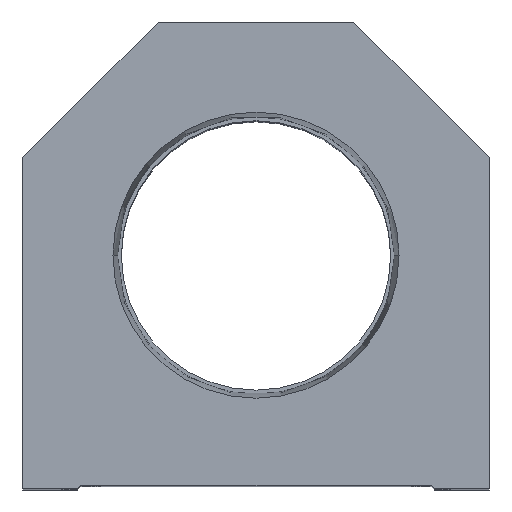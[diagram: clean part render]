
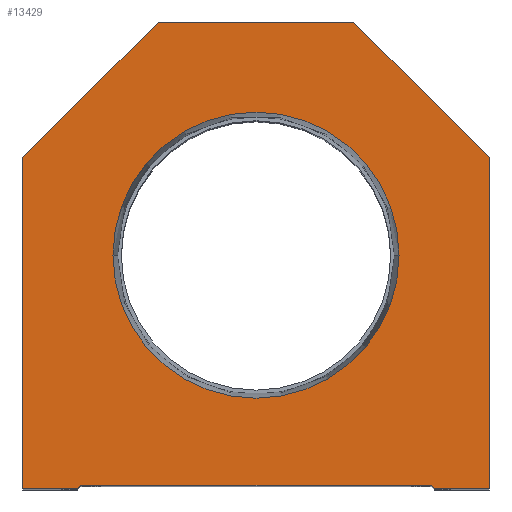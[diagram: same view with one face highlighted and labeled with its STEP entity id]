
A CAD part, top view. The second image highlights one B-rep face of the part: STEP entity #13429.
In plain terms, the highlighted planar face has unit normal (0, 0, 1).
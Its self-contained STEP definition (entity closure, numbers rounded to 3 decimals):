
#15 = EDGE_CURVE ( 'NONE', #10994, #6821, #7480, .T. ) ;
#188 = CARTESIAN_POINT ( 'NONE',  ( -29.1, 0., 0. ) ) ;
#552 = DIRECTION ( 'NONE',  ( 1., 0., 0. ) ) ;
#622 = CARTESIAN_POINT ( 'NONE',  ( 0., 0., 0. ) ) ;
#677 = DIRECTION ( 'NONE',  ( -0.707, 0.707, 0. ) ) ;
#753 = ORIENTED_EDGE ( 'NONE', *, *, #14272, .T. ) ;
#772 = EDGE_CURVE ( 'NONE', #4249, #15640, #3554, .T. ) ;
#859 = DIRECTION ( 'NONE',  ( 1., 0., 0. ) ) ;
#1172 = DIRECTION ( 'NONE',  ( -1., 0., 0. ) ) ;
#1192 = DIRECTION ( 'NONE',  ( 0., 1., 0. ) ) ;
#1453 = LINE ( 'NONE', #2497, #10303 ) ;
#1494 = AXIS2_PLACEMENT_3D ( 'NONE', #622, #1933, #15550 ) ;
#1665 = DIRECTION ( 'NONE',  ( -0.707, -0.707, 0. ) ) ;
#1927 = EDGE_CURVE ( 'NONE', #7690, #16699, #8554, .T. ) ;
#1933 = DIRECTION ( 'NONE',  ( 0., 0., 1. ) ) ;
#2105 = LINE ( 'NONE', #7360, #17096 ) ;
#2412 = FACE_OUTER_BOUND ( 'NONE', #5774, .T. ) ;
#2473 = AXIS2_PLACEMENT_3D ( 'NONE', #4831, #15375, #13965 ) ;
#2497 = CARTESIAN_POINT ( 'NONE',  ( 38.1, 0., 0. ) ) ;
#2647 = ORIENTED_EDGE ( 'NONE', *, *, #6293, .T. ) ;
#2718 = ORIENTED_EDGE ( 'NONE', *, *, #6754, .F. ) ;
#2752 = VERTEX_POINT ( 'NONE', #5841 ) ;
#2811 = ORIENTED_EDGE ( 'NONE', *, *, #772, .T. ) ;
#2813 = DIRECTION ( 'NONE',  ( 0.707, -0.707, 0. ) ) ;
#2865 = CARTESIAN_POINT ( 'NONE',  ( -16., 76.2, 0. ) ) ;
#2871 = VERTEX_POINT ( 'NONE', #15019 ) ;
#3147 = CARTESIAN_POINT ( 'NONE',  ( -38.1, 0., 0. ) ) ;
#3292 = CARTESIAN_POINT ( 'NONE',  ( 16., 76.2, 0. ) ) ;
#3301 = CARTESIAN_POINT ( 'NONE',  ( -38.1, 54.1, 0. ) ) ;
#3408 = ORIENTED_EDGE ( 'NONE', *, *, #15, .F. ) ;
#3554 = LINE ( 'NONE', #11404, #15757 ) ;
#3585 = CARTESIAN_POINT ( 'NONE',  ( -38.1, 0., 0. ) ) ;
#3791 = CARTESIAN_POINT ( 'NONE',  ( -23.374, 38.1, 0. ) ) ;
#3834 = EDGE_CURVE ( 'NONE', #8561, #17056, #13622, .T. ) ;
#3955 = CARTESIAN_POINT ( 'NONE',  ( 16., 76.2, 0. ) ) ;
#4249 = VERTEX_POINT ( 'NONE', #10241 ) ;
#4416 = DIRECTION ( 'NONE',  ( 0., -1., 0. ) ) ;
#4714 = ORIENTED_EDGE ( 'NONE', *, *, #5711, .T. ) ;
#4831 = CARTESIAN_POINT ( 'NONE',  ( 0., 38.1, 0. ) ) ;
#4976 = LINE ( 'NONE', #3955, #7278 ) ;
#5183 = ORIENTED_EDGE ( 'NONE', *, *, #1927, .T. ) ;
#5201 = CIRCLE ( 'NONE', #14953, 23.374 ) ;
#5251 = VECTOR ( 'NONE', #9587, 1000. ) ;
#5458 = LINE ( 'NONE', #10766, #16070 ) ;
#5711 = EDGE_CURVE ( 'NONE', #10489, #7690, #14969, .T. ) ;
#5774 = EDGE_LOOP ( 'NONE', ( #11963, #6545, #6504, #2647, #753, #14467, #2811, #16433, #4714, #5183 ) ) ;
#5841 = CARTESIAN_POINT ( 'NONE',  ( 29.1, 0., 0. ) ) ;
#5877 = LINE ( 'NONE', #13831, #6454 ) ;
#5897 = VECTOR ( 'NONE', #16178, 1000. ) ;
#5953 = DIRECTION ( 'NONE',  ( 0., 0., 1. ) ) ;
#6293 = EDGE_CURVE ( 'NONE', #17056, #2752, #5458, .T. ) ;
#6454 = VECTOR ( 'NONE', #552, 1000. ) ;
#6504 = ORIENTED_EDGE ( 'NONE', *, *, #3834, .T. ) ;
#6545 = ORIENTED_EDGE ( 'NONE', *, *, #16809, .T. ) ;
#6754 = EDGE_CURVE ( 'NONE', #6821, #10994, #5201, .T. ) ;
#6821 = VERTEX_POINT ( 'NONE', #9122 ) ;
#7278 = VECTOR ( 'NONE', #1172, 1000. ) ;
#7360 = CARTESIAN_POINT ( 'NONE',  ( 28.6, 0., 0. ) ) ;
#7480 = CIRCLE ( 'NONE', #2473, 23.374 ) ;
#7690 = VERTEX_POINT ( 'NONE', #3301 ) ;
#8022 = CARTESIAN_POINT ( 'NONE',  ( -28.6, 0.5, 0. ) ) ;
#8128 = LINE ( 'NONE', #8221, #5897 ) ;
#8185 = VECTOR ( 'NONE', #4416, 1000. ) ;
#8221 = CARTESIAN_POINT ( 'NONE',  ( -14.55, 14.55, 0. ) ) ;
#8377 = EDGE_LOOP ( 'NONE', ( #2718, #3408 ) ) ;
#8480 = EDGE_CURVE ( 'NONE', #2871, #4249, #1453, .T. ) ;
#8554 = LINE ( 'NONE', #3147, #8185 ) ;
#8561 = VERTEX_POINT ( 'NONE', #8022 ) ;
#8878 = EDGE_CURVE ( 'NONE', #16699, #9404, #5877, .T. ) ;
#9122 = CARTESIAN_POINT ( 'NONE',  ( 23.374, 38.1, 0. ) ) ;
#9404 = VERTEX_POINT ( 'NONE', #188 ) ;
#9432 = CARTESIAN_POINT ( 'NONE',  ( -38.1, 54.1, 0. ) ) ;
#9587 = DIRECTION ( 'NONE',  ( 1., 0., 0. ) ) ;
#10241 = CARTESIAN_POINT ( 'NONE',  ( 38.1, 54.1, 0. ) ) ;
#10303 = VECTOR ( 'NONE', #1192, 1000. ) ;
#10489 = VERTEX_POINT ( 'NONE', #2865 ) ;
#10766 = CARTESIAN_POINT ( 'NONE',  ( 14.55, 14.55, 0. ) ) ;
#10994 = VERTEX_POINT ( 'NONE', #3791 ) ;
#11404 = CARTESIAN_POINT ( 'NONE',  ( 38.1, 54.1, 0. ) ) ;
#11415 = CARTESIAN_POINT ( 'NONE',  ( 28.6, 0.5, 0. ) ) ;
#11963 = ORIENTED_EDGE ( 'NONE', *, *, #8878, .T. ) ;
#12212 = CARTESIAN_POINT ( 'NONE',  ( -28.6, 0.5, 0. ) ) ;
#12502 = DIRECTION ( 'NONE',  ( 1., 0., 0. ) ) ;
#12558 = CARTESIAN_POINT ( 'NONE',  ( 0., 38.1, 0. ) ) ;
#13429 = ADVANCED_FACE ( 'NONE', ( #14317, #2412 ), #16556, .T. ) ;
#13622 = LINE ( 'NONE', #12212, #5251 ) ;
#13831 = CARTESIAN_POINT ( 'NONE',  ( -28.6, 0., 0. ) ) ;
#13965 = DIRECTION ( 'NONE',  ( 1., 0., 0. ) ) ;
#14272 = EDGE_CURVE ( 'NONE', #2752, #2871, #2105, .T. ) ;
#14317 = FACE_BOUND ( 'NONE', #8377, .T. ) ;
#14445 = EDGE_CURVE ( 'NONE', #15640, #10489, #4976, .T. ) ;
#14467 = ORIENTED_EDGE ( 'NONE', *, *, #8480, .T. ) ;
#14953 = AXIS2_PLACEMENT_3D ( 'NONE', #12558, #5953, #859 ) ;
#14969 = LINE ( 'NONE', #9432, #15712 ) ;
#15019 = CARTESIAN_POINT ( 'NONE',  ( 38.1, 0., 0. ) ) ;
#15375 = DIRECTION ( 'NONE',  ( 0., 0., 1. ) ) ;
#15550 = DIRECTION ( 'NONE',  ( 1., 0., 0. ) ) ;
#15640 = VERTEX_POINT ( 'NONE', #3292 ) ;
#15712 = VECTOR ( 'NONE', #1665, 1000. ) ;
#15757 = VECTOR ( 'NONE', #677, 1000. ) ;
#16070 = VECTOR ( 'NONE', #2813, 1000. ) ;
#16178 = DIRECTION ( 'NONE',  ( 0.707, 0.707, 0. ) ) ;
#16433 = ORIENTED_EDGE ( 'NONE', *, *, #14445, .T. ) ;
#16556 = PLANE ( 'NONE',  #1494 ) ;
#16699 = VERTEX_POINT ( 'NONE', #3585 ) ;
#16809 = EDGE_CURVE ( 'NONE', #9404, #8561, #8128, .T. ) ;
#17056 = VERTEX_POINT ( 'NONE', #11415 ) ;
#17096 = VECTOR ( 'NONE', #12502, 1000. ) ;
